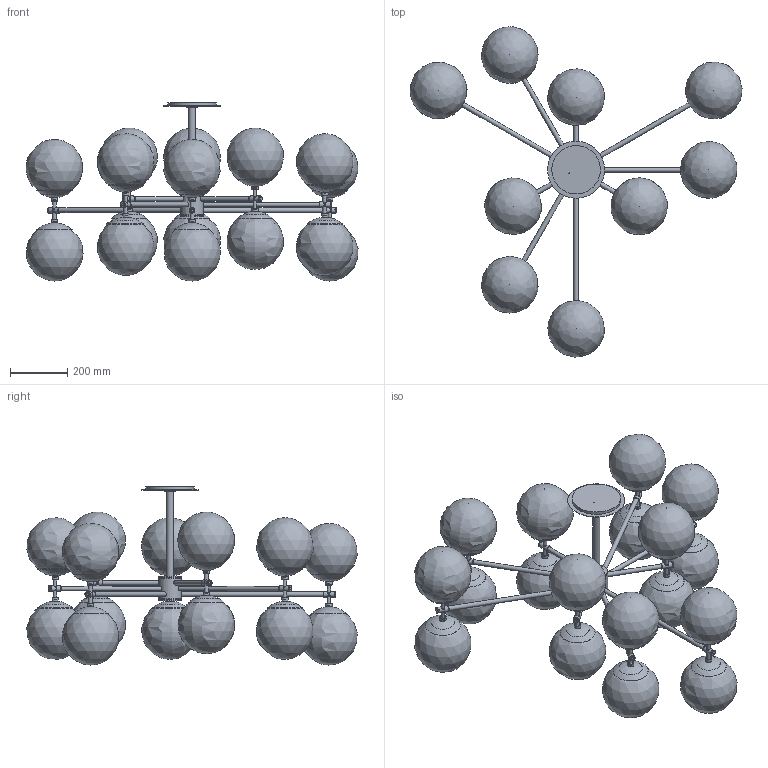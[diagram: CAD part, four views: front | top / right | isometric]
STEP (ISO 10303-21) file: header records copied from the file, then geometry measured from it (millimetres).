
FILE_DESCRIPTION(/* description */ (''),/* implementation_level */ '2;1');
FILE_NAME(/* name */ 'T:\B298 Globe Zodiac 51.7''''\Pliki bryłowe handlowe\B298 Zodiac 3D files_na stronę\B298 Zodiac.stp',/* time_stamp */ '2022-02-02T15:37:22+01:00',/* author */ ('Mariusz Awariusz'),/* organization */ (''),/* preprocessor_version */ 'ST-DEVELOPER v18.1',/* originating_system */ 'Autodesk Inventor 2022',/* authorisation */ '');
FILE_SCHEMA (('AUTOMOTIVE_DESIGN { 1 0 10303 214 3 1 1 }'));
Length unit declared in the file: millimetre
Products named in the file (1): B298 Globe Zodiac 51.7'' CE_v3_na potrzeby plików 3D_jako część_
korpusy bryłowe
Bounding box: 1163.67 x 1158.01 x 624.1 mm (x, y, z)
Volume: 6447292.9 mm3; surface area: 5244972 mm2
Topology: 107 solids, 107 shells, 828 faces, 1396 edges, 878 vertices
Faces by surface type: plane 286, cylinder 240, cone 183, bspline 44, torus 39, sphere 36
Full cylindrical faces by diameter (mm): 4 x1, 8.6 x9, 10 x9, 11.6 x36, 13 x54, 14.7 x18, 16 x45, 20 x18, 22 x18, 25 x1, 34.5 x1, 36 x1, 74 x2, 77 x2, 80 x3, 80.221 x18, 170 x1, 200 x1
Entity records: 21114 total; most frequent: CARTESIAN_POINT 4891, DIRECTION 3801, ORIENTED_EDGE 2720, AXIS2_PLACEMENT_3D 1672, EDGE_CURVE 1360, EDGE_LOOP 996, CIRCLE 887, VERTEX_POINT 878
